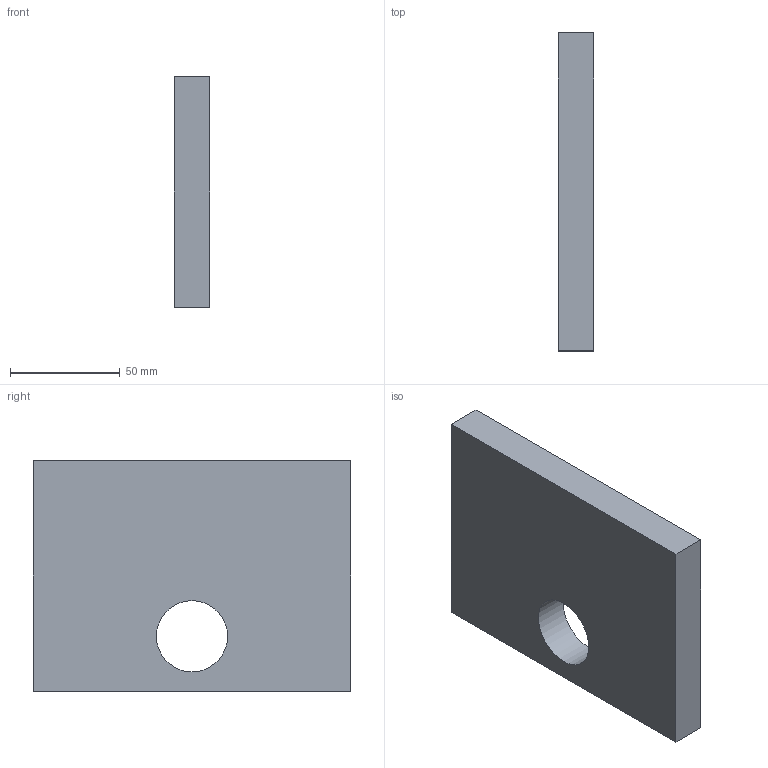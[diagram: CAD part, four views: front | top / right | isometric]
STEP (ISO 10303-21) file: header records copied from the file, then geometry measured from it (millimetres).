
FILE_DESCRIPTION(('Open CASCADE Model'),'2;1');
FILE_NAME('Open CASCADE Shape Model','2026-09-19T12:55:24',('Author'),( 'Open CASCADE'),'Open CASCADE STEP processor 7.9','Open CASCADE 7.9' ,'Unknown');
FILE_SCHEMA(('AUTOMOTIVE_DESIGN { 1 0 10303 214 1 1 1 1 }'));
Length unit declared in the file: millimetre
Products named in the file (1): Open CASCADE STEP translator 7.9 430
Bounding box: 16 x 145 x 105 mm (x, y, z)
Volume: 230326.8 mm3; surface area: 38424.5 mm2
Topology: 1 solids, 1 shells, 7 faces, 15 edges, 10 vertices
Faces by surface type: plane 6, cylinder 1
Full cylindrical faces by diameter (mm): 32.5 x1
Entity records: 400 total; most frequent: CARTESIAN_POINT 63, DIRECTION 63, LINE 41, VECTOR 41, ORIENTED_EDGE 30, PCURVE 30, DEFINITIONAL_REPRESENTATION 30, EDGE_CURVE 15
